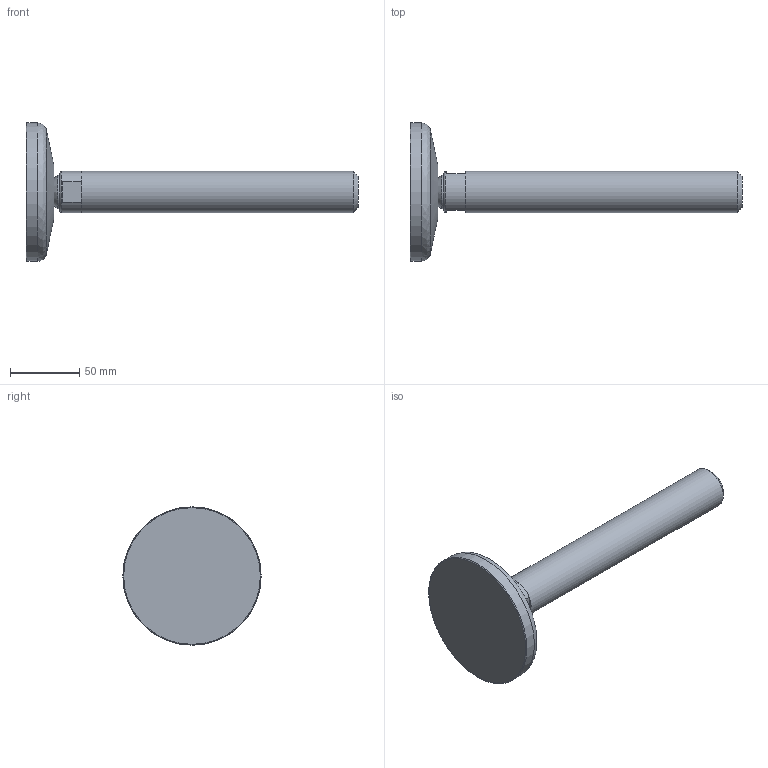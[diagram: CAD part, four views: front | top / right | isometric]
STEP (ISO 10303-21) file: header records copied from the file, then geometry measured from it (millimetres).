
FILE_DESCRIPTION(('STEP AP203'),'2;1');
FILE_NAME('11390-30.stp','2015-12-17T09:21:46',(''),(''),'2008.1.107','THINKDESIGN','');
FILE_SCHEMA(('CONFIG_CONTROL_DESIGN'));
Length unit declared in the file: millimetre
Bounding box: 240 x 100 x 100 mm (x, y, z)
Volume: 280995.7 mm3; surface area: 44117.8 mm2
Topology: 3 solids, 3 shells, 27 faces, 67 edges, 51 vertices
Faces by surface type: plane 13, bspline 8, cylinder 6
Full cylindrical faces by diameter (mm): 11 x1, 24 x2, 30 x2, 100 x1
Entity records: 1522 total; most frequent: CARTESIAN_POINT 664, DIRECTION 153, ORIENTED_EDGE 130, AXIS2_PLACEMENT_3D 67, EDGE_CURVE 65, CIRCLE 48, VERTEX_POINT 47, EDGE_LOOP 30
